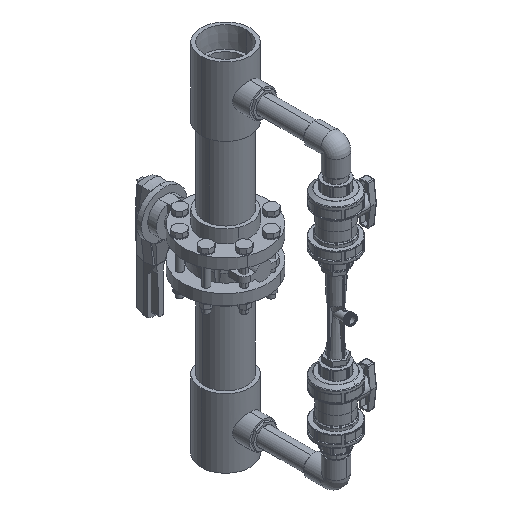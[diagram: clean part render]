
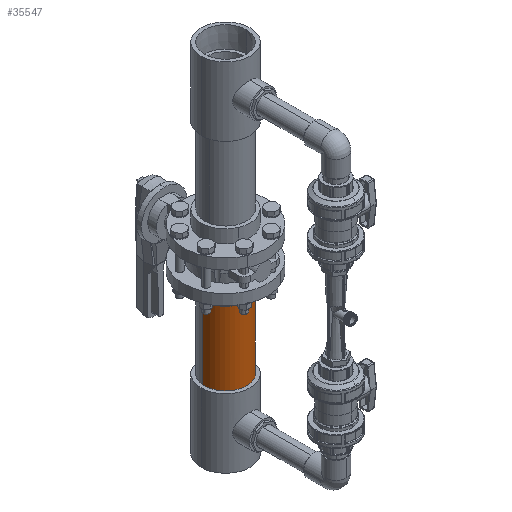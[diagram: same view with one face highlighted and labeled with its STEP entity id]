
A CAD part, isometric view. The second image highlights one B-rep face of the part: STEP entity #35547.
In plain terms, the highlighted cylindrical face has radius 57.15 mm (diameter 114.3 mm), a partial arc.
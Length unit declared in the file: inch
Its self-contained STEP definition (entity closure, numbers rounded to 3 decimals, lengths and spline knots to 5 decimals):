
#669 = DIRECTION ( 'NONE',  ( 0., 0., 1. ) ) ;
#2378 = EDGE_CURVE ( 'NONE', #4041, #18992, #41625, .T. ) ;
#2415 = EDGE_CURVE ( 'NONE', #4041, #46502, #18833, .T. ) ;
#3953 = VECTOR ( 'NONE', #7508, 39.37008 ) ;
#4041 = VERTEX_POINT ( 'NONE', #44129 ) ;
#6069 = VERTEX_POINT ( 'NONE', #41982 ) ;
#6588 = DIRECTION ( 'NONE',  ( -0.994, 0.11, 0. ) ) ;
#7508 = DIRECTION ( 'NONE',  ( 0., 0., -1. ) ) ;
#9952 = AXIS2_PLACEMENT_3D ( 'NONE', #32224, #10350, #35925 ) ;
#10350 = DIRECTION ( 'NONE',  ( 0., 0., 1. ) ) ;
#11018 = CARTESIAN_POINT ( 'NONE',  ( -2.61511, 10.03477, -1.20669 ) ) ;
#13468 = CARTESIAN_POINT ( 'NONE',  ( 1.85772, 9.54101, -1.20669 ) ) ;
#18833 = CIRCLE ( 'NONE', #30909, 2.25 ) ;
#18992 = VERTEX_POINT ( 'NONE', #19662 ) ;
#19662 = CARTESIAN_POINT ( 'NONE',  ( -2.61511, 10.03477, -13.70669 ) ) ;
#21216 = ORIENTED_EDGE ( 'NONE', *, *, #39757, .T. ) ;
#22567 = CARTESIAN_POINT ( 'NONE',  ( -0.3787, 9.78789, -1.20669 ) ) ;
#24318 = CYLINDRICAL_SURFACE ( 'NONE', #24554, 2.25 ) ;
#24506 = DIRECTION ( 'NONE',  ( 0., 0., -1. ) ) ;
#24554 = AXIS2_PLACEMENT_3D ( 'NONE', #39340, #28497, #6588 ) ;
#26202 = DIRECTION ( 'NONE',  ( 0.994, -0.11, 0. ) ) ;
#28497 = DIRECTION ( 'NONE',  ( 0., 0., -1. ) ) ;
#28738 = ORIENTED_EDGE ( 'NONE', *, *, #2415, .F. ) ;
#30701 = ORIENTED_EDGE ( 'NONE', *, *, #41948, .F. ) ;
#30909 = AXIS2_PLACEMENT_3D ( 'NONE', #22567, #669, #26202 ) ;
#32224 = CARTESIAN_POINT ( 'NONE',  ( -0.3787, 9.78789, -13.70669 ) ) ;
#33828 = CIRCLE ( 'NONE', #9952, 2.25 ) ;
#35018 = ORIENTED_EDGE ( 'NONE', *, *, #2378, .T. ) ;
#35547 = ADVANCED_FACE ( 'NONE', ( #44769 ), #24318, .T. ) ;
#35925 = DIRECTION ( 'NONE',  ( 0.994, -0.11, 0. ) ) ;
#36509 = CARTESIAN_POINT ( 'NONE',  ( 1.85772, 9.54101, -1.20669 ) ) ;
#37088 = VECTOR ( 'NONE', #24506, 39.37008 ) ;
#39340 = CARTESIAN_POINT ( 'NONE',  ( -0.3787, 9.78789, -1.20669 ) ) ;
#39757 = EDGE_CURVE ( 'NONE', #18992, #6069, #33828, .T. ) ;
#41625 = LINE ( 'NONE', #11018, #3953 ) ;
#41948 = EDGE_CURVE ( 'NONE', #46502, #6069, #46730, .T. ) ;
#41982 = CARTESIAN_POINT ( 'NONE',  ( 1.85772, 9.54101, -13.70669 ) ) ;
#43145 = EDGE_LOOP ( 'NONE', ( #30701, #28738, #35018, #21216 ) ) ;
#44129 = CARTESIAN_POINT ( 'NONE',  ( -2.61511, 10.03477, -1.20669 ) ) ;
#44769 = FACE_OUTER_BOUND ( 'NONE', #43145, .T. ) ;
#46502 = VERTEX_POINT ( 'NONE', #36509 ) ;
#46730 = LINE ( 'NONE', #13468, #37088 ) ;
